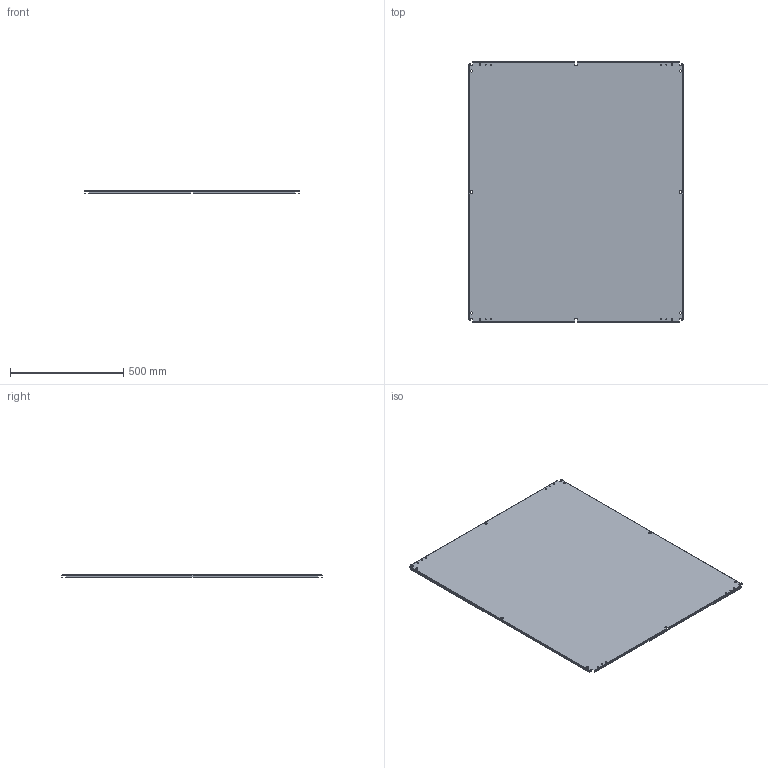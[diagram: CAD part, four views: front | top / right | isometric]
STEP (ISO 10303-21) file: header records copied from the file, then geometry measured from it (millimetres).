
FILE_DESCRIPTION (( 'STEP AP203' ), '1' );
FILE_NAME ('ECPA120100.STEP', '2020-04-09T08:17:11', ( '' ), ( '' ), 'SwSTEP 2.0', 'SolidWorks 2019', '' );
FILE_SCHEMA (( 'CONFIG_CONTROL_DESIGN' ));
Length unit declared in the file: millimetre
Products named in the file (1): ECPA120100
Bounding box: 950 x 1150 x 9.8 mm (x, y, z)
Volume: 2564922.9 mm3; surface area: 2241384 mm2
Topology: 1 solids, 1 shells, 118 faces, 320 edges, 204 vertices
Faces by surface type: plane 60, cylinder 58
Entity records: 3869 total; most frequent: DIRECTION 678, CARTESIAN_POINT 643, ORIENTED_EDGE 640, EDGE_CURVE 320, AXIS2_PLACEMENT_3D 239, VERTEX_POINT 204, VECTOR 200, LINE 200
